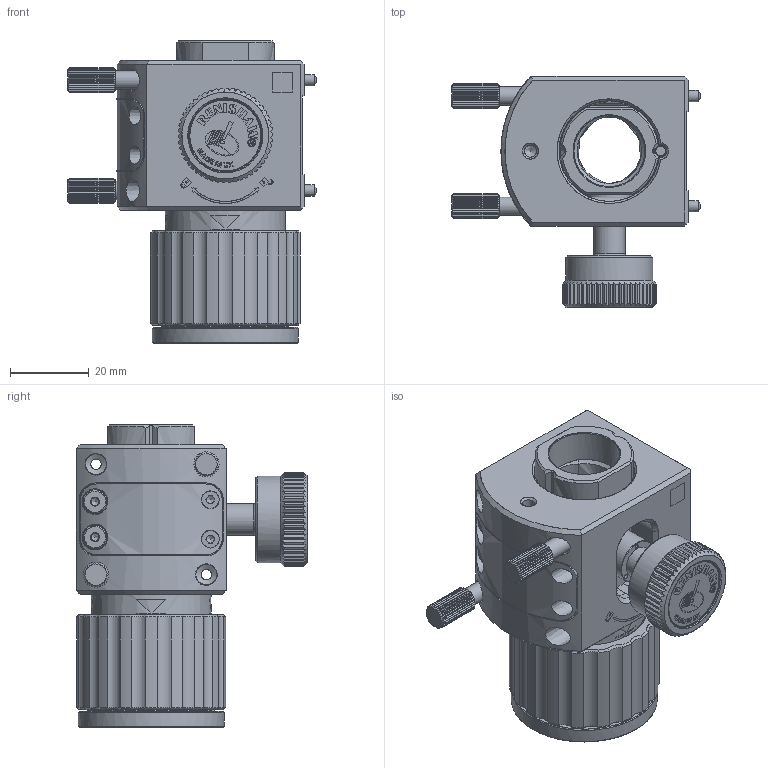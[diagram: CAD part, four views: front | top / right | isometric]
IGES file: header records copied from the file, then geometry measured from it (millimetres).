
Global section: file name: LA-9954-5500-A VERTICAL STAGE ASSY.igs; native system: NX V2312; preprocessor: SIEMENS PLM Software NX2312.9162; date: 20251119.090200; units: millimetre
Bounding box: 63 x 58.69 x 76.71 mm (x, y, z)
Surface area: 47995.8 mm2 (no closed solid volume)
Topology: 0 solids, 0 shells, 1346 faces, 9603 edges, 9419 vertices
Faces by surface type: bspline 1346
